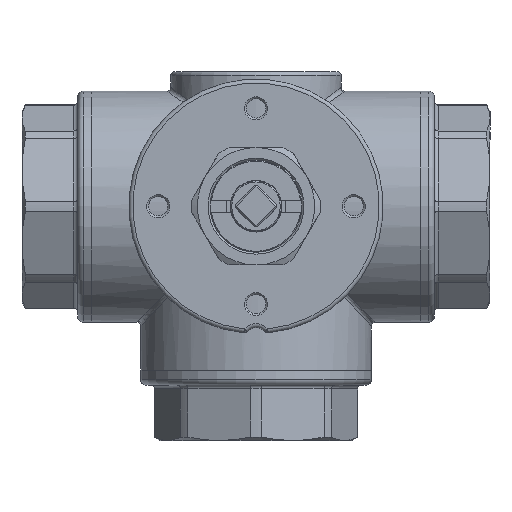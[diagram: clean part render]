
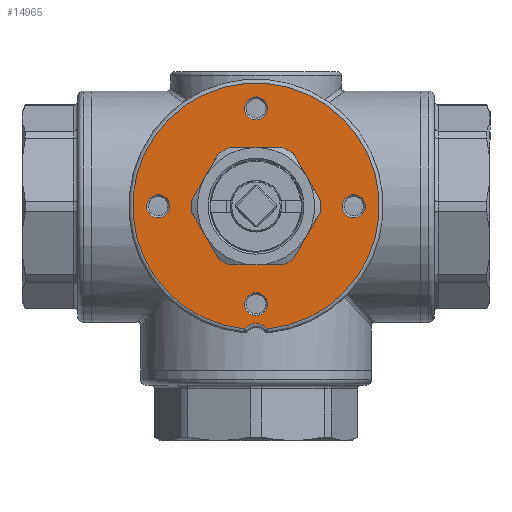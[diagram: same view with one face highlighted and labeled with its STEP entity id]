
A CAD part, top view. The second image highlights one B-rep face of the part: STEP entity #14965.
In plain terms, the highlighted planar face has unit normal (0, 0, 1) as drawn and (-1, 0, 0) by its records, which use the part's own axes.
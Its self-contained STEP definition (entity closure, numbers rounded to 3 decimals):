
#14881=CARTESIAN_POINT('',(-12.5,2.959,-25.0));
#14882=VERTEX_POINT('',#14881);
#14883=CARTESIAN_POINT('',(-12.5,0.,-25.0));
#14884=DIRECTION('',(-1.0,0.0,0.0));
#14885=DIRECTION('',(0.0,-1.0,0.0));
#14886=AXIS2_PLACEMENT_3D('',#14883,#14884,#14885);
#14887=CIRCLE('',#14886,2.959);
#14888=EDGE_CURVE('',#14882,#14882,#14887,.T.);
#14893=CARTESIAN_POINT('',(-12.5,16.25,0.0));
#14894=DIRECTION('',(-1.0,0.0,0.0));
#14895=DIRECTION('',(0.0,0.0,1.0));
#14896=AXIS2_PLACEMENT_3D('',#14893,#14894,#14895);
#14897=PLANE('',#14896);
#14898=CARTESIAN_POINT('',(-12.5,3.002,31.357));
#14899=VERTEX_POINT('',#14898);
#14900=CARTESIAN_POINT('',(-12.5,-3.002,31.357));
#14901=VERTEX_POINT('',#14900);
#14902=CARTESIAN_POINT('',(-12.5,0.,34.0));
#14903=DIRECTION('',(-1.0,0.0,0.0));
#14904=DIRECTION('',(0.0,0.0,-1.0));
#14905=AXIS2_PLACEMENT_3D('',#14902,#14903,#14904);
#14906=CIRCLE('',#14905,4.0);
#14907=EDGE_CURVE('',#14899,#14901,#14906,.T.);
#14908=ORIENTED_EDGE('',*,*,#14907,.F.);
#14909=CARTESIAN_POINT('',(-12.5,0.,0.0));
#14910=DIRECTION('',(1.0,0.0,0.0));
#14911=DIRECTION('',(0.0,-1.0,0.0));
#14912=AXIS2_PLACEMENT_3D('',#14909,#14910,#14911);
#14913=CIRCLE('',#14912,31.5);
#14914=EDGE_CURVE('',#14901,#14899,#14913,.T.);
#14915=ORIENTED_EDGE('',*,*,#14914,.F.);
#14916=EDGE_LOOP('',(#14908,#14915));
#14917=FACE_OUTER_BOUND('',#14916,.T.);
#14918=CARTESIAN_POINT('',(-12.5,27.958,0.));
#14919=VERTEX_POINT('',#14918);
#14920=CARTESIAN_POINT('',(-12.5,25.0,0.0));
#14921=DIRECTION('',(-1.0,0.0,0.0));
#14922=DIRECTION('',(0.0,-1.0,0.0));
#14923=AXIS2_PLACEMENT_3D('',#14920,#14921,#14922);
#14924=CIRCLE('',#14923,2.958);
#14925=EDGE_CURVE('',#14919,#14919,#14924,.T.);
#14926=ORIENTED_EDGE('',*,*,#14925,.F.);
#14927=EDGE_LOOP('',(#14926));
#14928=FACE_BOUND('',#14927,.T.);
#14929=CARTESIAN_POINT('',(-12.5,2.959,25.0));
#14930=VERTEX_POINT('',#14929);
#14931=CARTESIAN_POINT('',(-12.5,0.,25.0));
#14932=DIRECTION('',(-1.0,0.0,0.0));
#14933=DIRECTION('',(0.0,-1.0,0.0));
#14934=AXIS2_PLACEMENT_3D('',#14931,#14932,#14933);
#14935=CIRCLE('',#14934,2.959);
#14936=EDGE_CURVE('',#14930,#14930,#14935,.T.);
#14937=ORIENTED_EDGE('',*,*,#14936,.F.);
#14938=EDGE_LOOP('',(#14937));
#14939=FACE_BOUND('',#14938,.T.);
#14940=CARTESIAN_POINT('',(-12.5,-12.5,0.));
#14941=VERTEX_POINT('',#14940);
#14942=CARTESIAN_POINT('',(-12.5,0.,0.0));
#14943=DIRECTION('',(1.0,0.0,0.0));
#14944=DIRECTION('',(0.0,1.0,0.0));
#14945=AXIS2_PLACEMENT_3D('',#14942,#14943,#14944);
#14946=CIRCLE('',#14945,12.5);
#14947=EDGE_CURVE('',#14941,#14941,#14946,.T.);
#14948=ORIENTED_EDGE('',*,*,#14947,.T.);
#14949=EDGE_LOOP('',(#14948));
#14950=FACE_BOUND('',#14949,.T.);
#14951=CARTESIAN_POINT('',(-12.5,-22.042,0.));
#14952=VERTEX_POINT('',#14951);
#14953=CARTESIAN_POINT('',(-12.5,-25.0,0.0));
#14954=DIRECTION('',(-1.0,0.0,0.0));
#14955=DIRECTION('',(0.0,-1.0,0.0));
#14956=AXIS2_PLACEMENT_3D('',#14953,#14954,#14955);
#14957=CIRCLE('',#14956,2.958);
#14958=EDGE_CURVE('',#14952,#14952,#14957,.T.);
#14959=ORIENTED_EDGE('',*,*,#14958,.F.);
#14960=EDGE_LOOP('',(#14959));
#14961=FACE_BOUND('',#14960,.T.);
#14962=ORIENTED_EDGE('',*,*,#14888,.F.);
#14963=EDGE_LOOP('',(#14962));
#14964=FACE_BOUND('',#14963,.T.);
#14965=ADVANCED_FACE('',(#14917,#14928,#14939,#14950,#14961,#14964),#14897,.T.);
